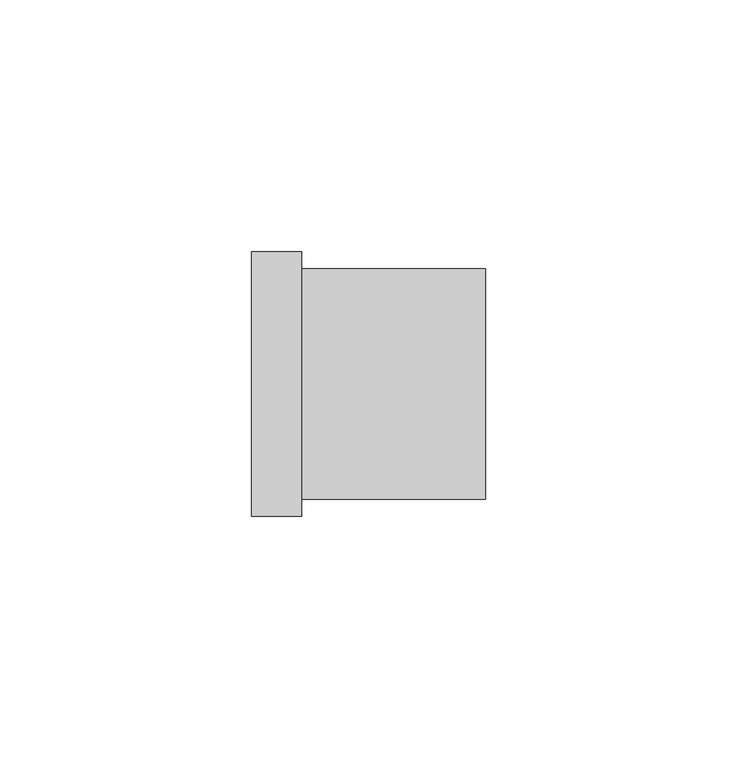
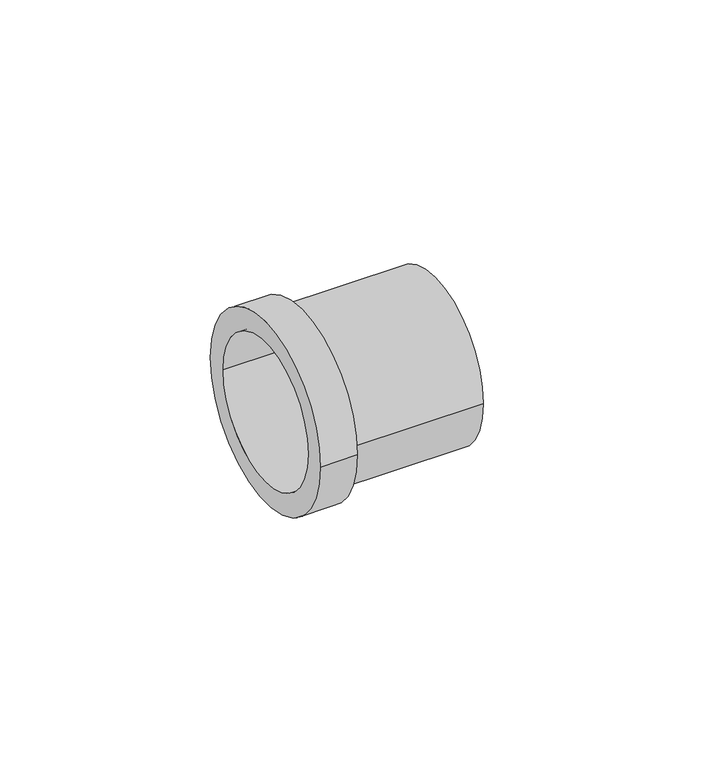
"""IFC4 building model written with IfcOpenShell, lengths in millimetres: pipe fitting geometry, FASTLOC_Sleeve outside : FSL S O DN1."""

from ifc_helpers import new_model, si_unit, frame, origin, place, context, project, spatial, polyline, circle_curve, source, transform, mapped, element, save
from ifc_brep_helpers import plane_surface, cylinder_surface, revolved_surface, advanced_brep


def pipe_fitting_bcc3186d(model_context):
    return source(origin(), model_context, "Body", "AdvancedBrep", [
        advanced_brep(
        [(10.0, 26.3, 0.0), (10.0, -26.3, 0.0), (0.0, -26.3, 0.0), (0.0, 26.3, 0.0), (46.5, 22.9, 0.0), (46.5, -22.9, 0.0), (10.0, -22.9, 0.0), (10.0, 22.9, 0.0), (0.0, 20.2, 0.0), (0.0, -20.2, 0.0), (46.5, -20.2, 0.0), (46.5, 20.2, 0.0)],
        [
            (0, 1, circle_curve(frame((10.0, 0.0, 0.0), z_axis=(-1.0, 0.0, 0.0), x_axis=(0.0, -1.0, 0.0)), 26.3)),
            (1, 2),
            (2, 3, circle_curve(frame((0.0, 0.0, 0.0), z_axis=(1.0, 0.0, 0.0), x_axis=(0.0, -1.0, 0.0)), 26.3)),
            (3, 0),
            (4, 5, circle_curve(frame((46.5, 0.0, 0.0), z_axis=(-1.0, 0.0, 0.0), x_axis=(0.0, -1.0, 0.0)), 22.9)),
            (5, 6),
            (6, 7, circle_curve(frame((10.0, 0.0, 0.0), z_axis=(1.0, 0.0, 0.0), x_axis=(0.0, -1.0, 0.0)), 22.9)),
            (7, 4),
            (8, 9, circle_curve(frame((0.0, 0.0, 0.0), z_axis=(-1.0, 0.0, 0.0), x_axis=(0.0, -1.0, 0.0)), 20.2)),
            (9, 10),
            (10, 11, circle_curve(frame((46.5, 0.0, 0.0), z_axis=(1.0, 0.0, 0.0), x_axis=(0.0, -1.0, 0.0)), 20.2)),
            (11, 8),
            (1, 0, circle_curve(frame((10.0, 0.0, 0.0), z_axis=(-1.0, 0.0, 0.0), x_axis=(0.0, 1.0, 0.0)), 26.3)),
            (3, 2, circle_curve(frame((0.0, 0.0, 0.0), z_axis=(1.0, 0.0, 0.0), x_axis=(0.0, 1.0, 0.0)), 26.3)),
            (6, 7, circle_curve(frame((10.0, 0.0, 0.0), z_axis=(-1.0, 0.0, 0.0), x_axis=(0.0, 1.0, 0.0)), 22.9)),
            (5, 4, circle_curve(frame((46.5, 0.0, 0.0), z_axis=(-1.0, 0.0, 0.0), x_axis=(0.0, 1.0, 0.0)), 22.9)),
            (10, 11, circle_curve(frame((46.5, 0.0, 0.0), z_axis=(-1.0, 0.0, 0.0), x_axis=(0.0, 1.0, 0.0)), 20.2)),
            (9, 8, circle_curve(frame((0.0, 0.0, 0.0), z_axis=(-1.0, 0.0, 0.0), x_axis=(0.0, 1.0, 0.0)), 20.2)),
        ],
        [
            cylinder_surface(frame((0.0, 0.0, 0.0), z_axis=(1.0, 0.0, 0.0), x_axis=(0.0, -1.0, 0.0)), 26.3),
            cylinder_surface(frame((0.0, 0.0, 0.0), z_axis=(1.0, 0.0, 0.0), x_axis=(0.0, -1.0, 0.0)), 22.9),
            revolved_surface(polyline([(46.5, -20.2, 0.0), (0.0, -20.2, 0.0)]), (0.0, 0.0, 0.0), (1.0, 0.0, 0.0)),
            cylinder_surface(frame((0.0, 0.0, 0.0), z_axis=(1.0, 0.0, 0.0), x_axis=(0.0, 1.0, 0.0)), 26.3),
            plane_surface(frame((10.0, 0.0, 0.0), z_axis=(1.0, 0.0, 0.0), x_axis=(0.0, 1.0, 0.0))),
            cylinder_surface(frame((0.0, 0.0, 0.0), z_axis=(1.0, 0.0, 0.0), x_axis=(0.0, 1.0, 0.0)), 22.9),
            plane_surface(frame((46.5, 0.0, 0.0), z_axis=(1.0, 0.0, 0.0), x_axis=(0.0, 1.0, 0.0))),
            revolved_surface(polyline([(46.5, 20.2, 0.0), (0.0, 20.2, 0.0)]), (0.0, 0.0, 0.0), (1.0, 0.0, 0.0)),
            plane_surface(frame((0.0, 0.0, 0.0), z_axis=(-1.0, 0.0, 0.0), x_axis=(0.0, 1.0, 0.0))),
        ],
        [
            (0, [[1, 2, 3, 4]]),
            (1, [[5, 6, 7, 8]]),
            (2, [[9, 10, 11, 12]]),
            (3, [[13, -4, 14, -2]]),
            (4, [[-13, -1], [15, -7]]),
            (5, [[16, -8, -15, -6]]),
            (6, [[-16, -5], [17, -11]]),
            (7, [[18, -12, -17, -10]]),
            (8, [[-14, -3], [-18, -9]]),
        ],
    ),
    ])


if __name__ == "__main__":
    model = new_model("IFC4")
    model_context = context("Model", 3, world=origin())
    ifc_project = project(units=[si_unit("LENGTHUNIT", "METRE", prefix="MILLI")], contexts=[model_context])
    site = spatial("IfcSite", under=ifc_project)
    building = spatial("IfcBuilding", under=site)
    placement = place(None, origin())
    pipe_fitting_shape = pipe_fitting_bcc3186d(model_context)
    element("IfcPipeFitting", 1, ObjectType="FASTLOC_Sleeve outside : FSL S O DN1", at=placement, inside=building, context=model_context, shape_type="MappedRepresentation", body=[
        mapped(pipe_fitting_shape, transform((0.0, 0.0, 0.0), x_axis=(1.0, 0.0, 0.0), y_axis=(0.0, 1.0, 0.0), z_axis=(0.0, 0.0, 1.0))),
    ])
    save(model, "model.ifc")
